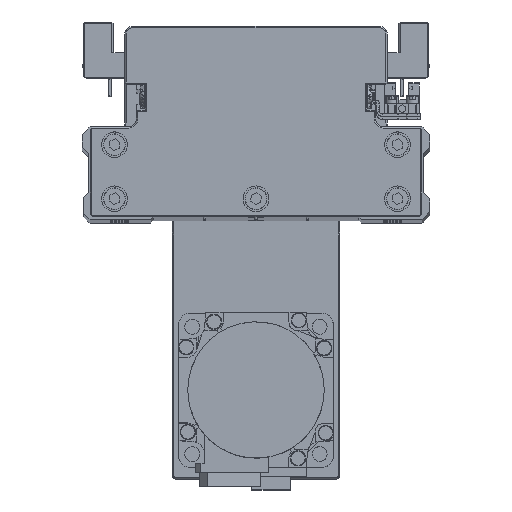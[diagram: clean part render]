
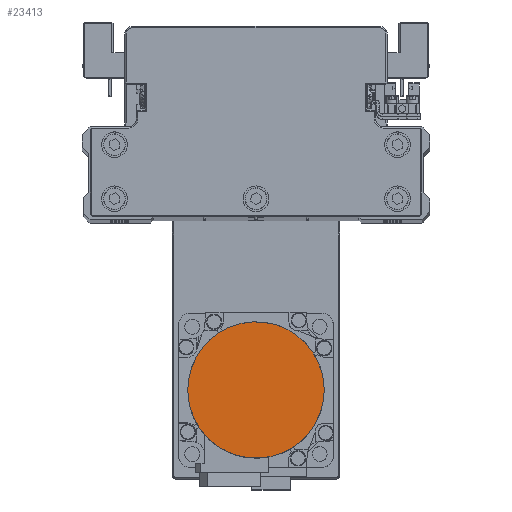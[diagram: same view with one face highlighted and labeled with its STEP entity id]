
A CAD part, top view. The second image highlights one B-rep face of the part: STEP entity #23413.
In plain terms, the highlighted planar face has unit normal (0, 0, 1) as drawn and (0, 0, -1) by its records, which use the part's own axes.
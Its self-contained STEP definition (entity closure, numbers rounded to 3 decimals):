
#1802 = CARTESIAN_POINT ( 'NONE',  ( 0., 0., -109.7 ) ) ;
#1897 = CARTESIAN_POINT ( 'NONE',  ( 26.5, 1.734, -109.7 ) ) ;
#2094 = CARTESIAN_POINT ( 'NONE',  ( 6.871, 25.652, -109.7 ) ) ;
#2174 = VERTEX_POINT ( 'NONE', #20418 ) ;
#2254 = CARTESIAN_POINT ( 'NONE',  ( -25.147, -8.539, -109.7 ) ) ;
#2307 = CARTESIAN_POINT ( 'NONE',  ( -22.998, 13.28, -109.7 ) ) ;
#2459 = CARTESIAN_POINT ( 'NONE',  ( 1.734, -26.5, -109.7 ) ) ;
#2658 = CARTESIAN_POINT ( 'NONE',  ( 25.652, -6.871, -109.7 ) ) ;
#5171 = CARTESIAN_POINT ( 'NONE',  ( 13.28, 22.998, -109.7 ) ) ;
#5329 = CARTESIAN_POINT ( 'NONE',  ( -26.5, -1.734, -109.7 ) ) ;
#5375 = ORIENTED_EDGE ( 'NONE', *, *, #23808, .F. ) ;
#5376 = CARTESIAN_POINT ( 'NONE',  ( -17.512, 19.965, -109.7 ) ) ;
#5531 = CARTESIAN_POINT ( 'NONE',  ( -6.871, -25.652, -109.7 ) ) ;
#5731 = CARTESIAN_POINT ( 'NONE',  ( 22.998, -13.28, -109.7 ) ) ;
#6837 = B_SPLINE_CURVE_WITH_KNOTS ( 'NONE', 3,
 ( #30040, #1897, #14414, #26978, #39493, #11334, #23884, #36407, #8261, #20805, #33328, #5171, #17701, #30245, #2094, #14610, #27176, #39703, #11541, #24092, #36611, #8464, #21013, #33534, #5376, #17900, #30449, #2307, #14820, #27376, #39901, #11738, #24293, #36820 ),
 .UNSPECIFIED., .F., .F.,
 ( 4, 2, 2, 2, 2, 2, 2, 2, 2, 2, 2, 2, 2, 2, 2, 2, 4 ),
 ( 0., 0.062, 0.125, 0.187, 0.25, 0.312, 0.375, 0.437, 0.5, 0.562, 0.625, 0.687, 0.75, 0.813, 0.875, 0.938, 1. ),
 .UNSPECIFIED. ) ;
#8261 = CARTESIAN_POINT ( 'NONE',  ( 19.965, 17.512, -109.7 ) ) ;
#8464 = CARTESIAN_POINT ( 'NONE',  ( -11.744, 23.819, -109.7 ) ) ;
#8624 = CARTESIAN_POINT ( 'NONE',  ( -13.28, -22.998, -109.7 ) ) ;
#8821 = CARTESIAN_POINT ( 'NONE',  ( 17.512, -19.965, -109.7 ) ) ;
#11334 = CARTESIAN_POINT ( 'NONE',  ( 23.819, 11.744, -109.7 ) ) ;
#11541 = CARTESIAN_POINT ( 'NONE',  ( -3.469, 26.329, -109.7 ) ) ;
#11695 = CARTESIAN_POINT ( 'NONE',  ( -19.965, -17.512, -109.7 ) ) ;
#11717 = ORIENTED_EDGE ( 'NONE', *, *, #33030, .F. ) ;
#11738 = CARTESIAN_POINT ( 'NONE',  ( -26.329, 3.469, -109.7 ) ) ;
#11900 = CARTESIAN_POINT ( 'NONE',  ( 11.744, -23.819, -109.7 ) ) ;
#12930 = AXIS2_PLACEMENT_3D ( 'NONE', #1802, #14310, #26872 ) ;
#14310 = DIRECTION ( 'NONE',  ( 0., 0., 1. ) ) ;
#14414 = CARTESIAN_POINT ( 'NONE',  ( 26.329, 3.469, -109.7 ) ) ;
#14610 = CARTESIAN_POINT ( 'NONE',  ( 3.469, 26.329, -109.7 ) ) ;
#14779 = CARTESIAN_POINT ( 'NONE',  ( -23.819, -11.744, -109.7 ) ) ;
#14820 = CARTESIAN_POINT ( 'NONE',  ( -23.819, 11.744, -109.7 ) ) ;
#14976 = CARTESIAN_POINT ( 'NONE',  ( 3.469, -26.329, -109.7 ) ) ;
#15176 = CARTESIAN_POINT ( 'NONE',  ( 26.329, -3.469, -109.7 ) ) ;
#17701 = CARTESIAN_POINT ( 'NONE',  ( 11.744, 23.819, -109.7 ) ) ;
#17852 = CARTESIAN_POINT ( 'NONE',  ( -26.329, -3.469, -109.7 ) ) ;
#17900 = CARTESIAN_POINT ( 'NONE',  ( -19.965, 17.512, -109.7 ) ) ;
#18070 = CARTESIAN_POINT ( 'NONE',  ( -3.469, -26.329, -109.7 ) ) ;
#18262 = CARTESIAN_POINT ( 'NONE',  ( 23.819, -11.744, -109.7 ) ) ;
#19338 = EDGE_LOOP ( 'NONE', ( #5375, #11717 ) ) ;
#20418 = CARTESIAN_POINT ( 'NONE',  ( -26.5, 0., -109.7 ) ) ;
#20488 = FACE_OUTER_BOUND ( 'NONE', #19338, .T. ) ;
#20805 = CARTESIAN_POINT ( 'NONE',  ( 17.512, 19.965, -109.7 ) ) ;
#21013 = CARTESIAN_POINT ( 'NONE',  ( -13.28, 22.998, -109.7 ) ) ;
#21164 = CARTESIAN_POINT ( 'NONE',  ( -11.744, -23.819, -109.7 ) ) ;
#21369 = CARTESIAN_POINT ( 'NONE',  ( 19.965, -17.512, -109.7 ) ) ;
#21913 = B_SPLINE_CURVE_WITH_KNOTS ( 'NONE', 3,
 ( #33491, #5329, #17852, #30394, #2254, #14779, #27333, #39858, #11695, #24248, #36777, #8624, #21164, #33685, #5531, #18070, #30610, #2459, #14976, #27530, #40060, #11900, #24443, #36966, #8821, #21369, #33897, #5731, #18262, #30805, #2658, #15176, #27726, #40253 ),
 .UNSPECIFIED., .F., .F.,
 ( 4, 2, 2, 2, 2, 2, 2, 2, 2, 2, 2, 2, 2, 2, 2, 2, 4 ),
 ( 0., 0.063, 0.125, 0.188, 0.25, 0.312, 0.375, 0.437, 0.5, 0.562, 0.625, 0.687, 0.75, 0.813, 0.875, 0.938, 1. ),
 .UNSPECIFIED. ) ;
#23413 = ADVANCED_FACE ( 'NONE', ( #20488 ), #29944, .F. ) ;
#23808 = EDGE_CURVE ( 'NONE', #40373, #2174, #6837, .T. ) ;
#23884 = CARTESIAN_POINT ( 'NONE',  ( 22.998, 13.28, -109.7 ) ) ;
#24092 = CARTESIAN_POINT ( 'NONE',  ( -6.871, 25.652, -109.7 ) ) ;
#24248 = CARTESIAN_POINT ( 'NONE',  ( -17.512, -19.965, -109.7 ) ) ;
#24293 = CARTESIAN_POINT ( 'NONE',  ( -26.5, 1.734, -109.7 ) ) ;
#24443 = CARTESIAN_POINT ( 'NONE',  ( 13.28, -22.998, -109.7 ) ) ;
#26872 = DIRECTION ( 'NONE',  ( 1., 0., 0. ) ) ;
#26978 = CARTESIAN_POINT ( 'NONE',  ( 25.652, 6.871, -109.7 ) ) ;
#27176 = CARTESIAN_POINT ( 'NONE',  ( 1.734, 26.5, -109.7 ) ) ;
#27333 = CARTESIAN_POINT ( 'NONE',  ( -22.998, -13.28, -109.7 ) ) ;
#27376 = CARTESIAN_POINT ( 'NONE',  ( -25.147, 8.539, -109.7 ) ) ;
#27530 = CARTESIAN_POINT ( 'NONE',  ( 6.871, -25.652, -109.7 ) ) ;
#27726 = CARTESIAN_POINT ( 'NONE',  ( 26.5, -1.734, -109.7 ) ) ;
#28179 = CARTESIAN_POINT ( 'NONE',  ( 26.5, 0., -109.7 ) ) ;
#29944 = PLANE ( 'NONE',  #12930 ) ;
#30040 = CARTESIAN_POINT ( 'NONE',  ( 26.5, 0., -109.7 ) ) ;
#30245 = CARTESIAN_POINT ( 'NONE',  ( 8.539, 25.147, -109.7 ) ) ;
#30394 = CARTESIAN_POINT ( 'NONE',  ( -25.652, -6.871, -109.7 ) ) ;
#30449 = CARTESIAN_POINT ( 'NONE',  ( -21.07, 16.165, -109.7 ) ) ;
#30610 = CARTESIAN_POINT ( 'NONE',  ( -1.734, -26.5, -109.7 ) ) ;
#30805 = CARTESIAN_POINT ( 'NONE',  ( 25.147, -8.539, -109.7 ) ) ;
#33030 = EDGE_CURVE ( 'NONE', #2174, #40373, #21913, .T. ) ;
#33328 = CARTESIAN_POINT ( 'NONE',  ( 16.165, 21.07, -109.7 ) ) ;
#33491 = CARTESIAN_POINT ( 'NONE',  ( -26.5, 0., -109.7 ) ) ;
#33534 = CARTESIAN_POINT ( 'NONE',  ( -16.165, 21.07, -109.7 ) ) ;
#33685 = CARTESIAN_POINT ( 'NONE',  ( -8.539, -25.147, -109.7 ) ) ;
#33897 = CARTESIAN_POINT ( 'NONE',  ( 21.07, -16.165, -109.7 ) ) ;
#36407 = CARTESIAN_POINT ( 'NONE',  ( 21.07, 16.165, -109.7 ) ) ;
#36611 = CARTESIAN_POINT ( 'NONE',  ( -8.539, 25.147, -109.7 ) ) ;
#36777 = CARTESIAN_POINT ( 'NONE',  ( -16.165, -21.07, -109.7 ) ) ;
#36820 = CARTESIAN_POINT ( 'NONE',  ( -26.5, 0., -109.7 ) ) ;
#36966 = CARTESIAN_POINT ( 'NONE',  ( 16.165, -21.07, -109.7 ) ) ;
#39493 = CARTESIAN_POINT ( 'NONE',  ( 25.147, 8.539, -109.7 ) ) ;
#39703 = CARTESIAN_POINT ( 'NONE',  ( -1.734, 26.5, -109.7 ) ) ;
#39858 = CARTESIAN_POINT ( 'NONE',  ( -21.07, -16.165, -109.7 ) ) ;
#39901 = CARTESIAN_POINT ( 'NONE',  ( -25.652, 6.871, -109.7 ) ) ;
#40060 = CARTESIAN_POINT ( 'NONE',  ( 8.539, -25.147, -109.7 ) ) ;
#40253 = CARTESIAN_POINT ( 'NONE',  ( 26.5, 0., -109.7 ) ) ;
#40373 = VERTEX_POINT ( 'NONE', #28179 ) ;
